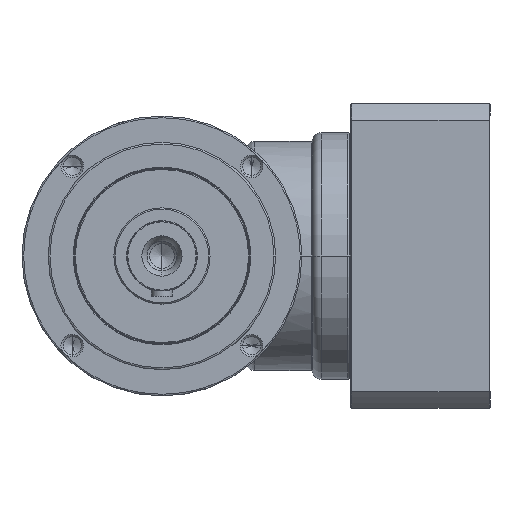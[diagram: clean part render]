
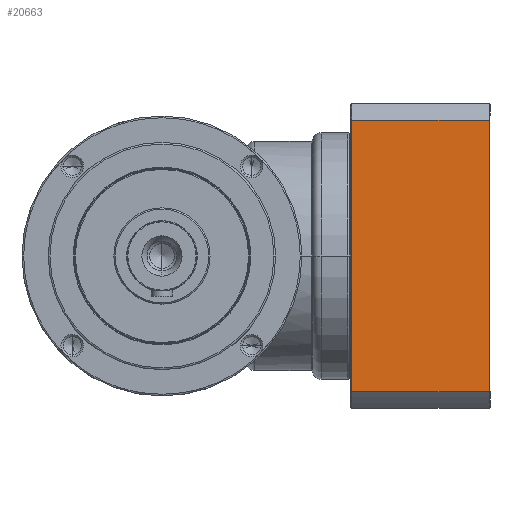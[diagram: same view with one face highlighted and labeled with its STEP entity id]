
A CAD part, left-side view. The second image highlights one B-rep face of the part: STEP entity #20663.
In plain terms, the highlighted planar face has unit normal (-1, 0, 0) as drawn and (0, -1, 0) by its records, which use the part's own axes.
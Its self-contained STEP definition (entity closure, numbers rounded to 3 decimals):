
#19519=DIRECTION('',(1.,0.,0.));
#19520=VECTOR('',#19519,154.961);
#19521=CARTESIAN_POINT('',(-77.481,-87.,
3.));
#19522=LINE('',#19521,#19520);
#19523=DIRECTION('',(0.,0.,1.));
#19524=VECTOR('',#19523,78.5);
#19525=CARTESIAN_POINT('',(-77.481,-87.,
3.));
#19526=LINE('',#19525,#19524);
#19527=DIRECTION('',(1.,0.,0.));
#19528=VECTOR('',#19527,154.961);
#19529=CARTESIAN_POINT('',(-77.481,-87.,
81.5));
#19530=LINE('',#19529,#19528);
#19531=DIRECTION('',(0.,0.,1.));
#19532=VECTOR('',#19531,78.5);
#19533=CARTESIAN_POINT('',(77.481,-87.,
3.));
#19534=LINE('',#19533,#19532);
#20228=CARTESIAN_POINT('',(-77.481,-87.,
81.5));
#20229=CARTESIAN_POINT('',(77.481,-87.,
81.5));
#20230=VERTEX_POINT('',#20228);
#20231=VERTEX_POINT('',#20229);
#20265=CARTESIAN_POINT('',(-77.481,-87.,3.));
#20267=VERTEX_POINT('',#20265);
#20270=CARTESIAN_POINT('',(77.481,-87.,
3.));
#20271=VERTEX_POINT('',#20270);
#20649=CARTESIAN_POINT('',(-87.,-87.,0.));
#20650=DIRECTION('',(0.,-1.,0.));
#20651=DIRECTION('',(1.,0.,0.));
#20652=AXIS2_PLACEMENT_3D('',#20649,#20650,#20651);
#20653=PLANE('',#20652);
#20654=ORIENTED_EDGE('',*,*,#20643,.F.);
#20656=ORIENTED_EDGE('',*,*,#20655,.T.);
#20658=ORIENTED_EDGE('',*,*,#20657,.T.);
#20660=ORIENTED_EDGE('',*,*,#20659,.F.);
#20661=EDGE_LOOP('',(#20654,#20656,#20658,#20660));
#20662=FACE_OUTER_BOUND('',#20661,.F.);
#20663=ADVANCED_FACE('',(#20662),#20653,.T.);
#20643=EDGE_CURVE('',#20267,#20271,#19522,.T.);
#20655=EDGE_CURVE('',#20267,#20230,#19526,.T.);
#20657=EDGE_CURVE('',#20230,#20231,#19530,.T.);
#20659=EDGE_CURVE('',#20271,#20231,#19534,.T.);
